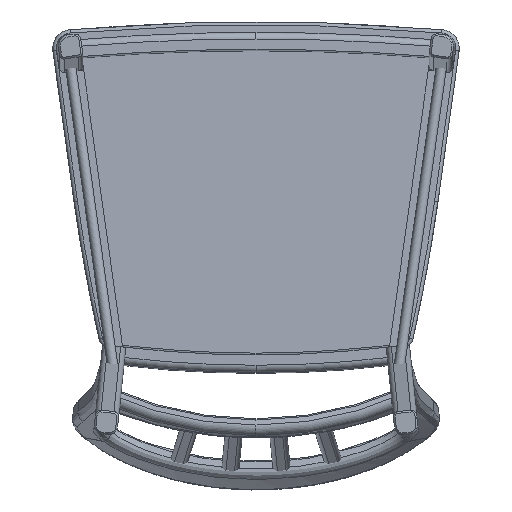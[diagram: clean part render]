
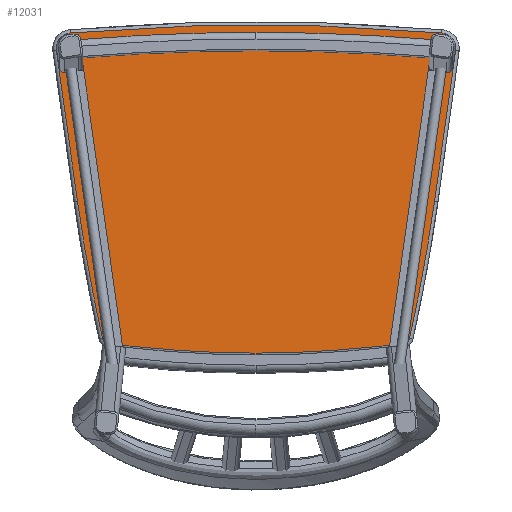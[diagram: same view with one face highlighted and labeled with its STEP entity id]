
A CAD part, front view. The second image highlights one B-rep face of the part: STEP entity #12031.
In plain terms, the highlighted planar face has unit normal (0, -0.999, 0.035).
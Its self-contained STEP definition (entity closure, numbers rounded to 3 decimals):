
#7 = EDGE_CURVE ( 'NONE', #11595, #2151, #10509, .T. ) ;
#92 = CARTESIAN_POINT ( 'NONE',  ( 1771.584, 412.214, 63.408 ) ) ;
#319 = DIRECTION ( 'NONE',  ( 0.139, 0.035, 0.99 ) ) ;
#750 = DIRECTION ( 'NONE',  ( 0., -0.035, -0.999 ) ) ;
#1405 = ORIENTED_EDGE ( 'NONE', *, *, #5393, .T. ) ;
#1466 = CARTESIAN_POINT ( 'NONE',  ( -170.146, 397.011, -371.969 ) ) ;
#1697 = ORIENTED_EDGE ( 'NONE', *, *, #9296, .T. ) ;
#2090 = VECTOR ( 'NONE', #319, 1000. ) ;
#2151 = VERTEX_POINT ( 'NONE', #5919 ) ;
#2573 = DIRECTION ( 'NONE',  ( 0., -0.999, 0.035 ) ) ;
#2682 = ORIENTED_EDGE ( 'NONE', *, *, #2939, .T. ) ;
#2739 = DIRECTION ( 'NONE',  ( 0., -0.999, 0.035 ) ) ;
#2939 = EDGE_CURVE ( 'NONE', #3916, #4698, #10437, .T. ) ;
#3056 = CIRCLE ( 'NONE', #12260, 8. ) ;
#3479 = CIRCLE ( 'NONE', #13571, 18. ) ;
#3733 = ORIENTED_EDGE ( 'NONE', *, *, #7009, .T. ) ;
#3916 = VERTEX_POINT ( 'NONE', #14881 ) ;
#3921 = CARTESIAN_POINT ( 'NONE',  ( -206.971, 402.51, -214.491 ) ) ;
#4113 = LINE ( 'NONE', #18176, #14461 ) ;
#4134 = VERTEX_POINT ( 'NONE', #17749 ) ;
#4144 = CIRCLE ( 'NONE', #13938, 1998. ) ;
#4237 = DIRECTION ( 'NONE',  ( 0., -0.035, -0.999 ) ) ;
#4402 = VERTEX_POINT ( 'NONE', #3921 ) ;
#4596 = AXIS2_PLACEMENT_3D ( 'NONE', #8421, #2739, #15504 ) ;
#4627 = DIRECTION ( 'NONE',  ( 0., -0.035, -0.999 ) ) ;
#4698 = VERTEX_POINT ( 'NONE', #11644 ) ;
#4783 = CARTESIAN_POINT ( 'NONE',  ( -231.522, 408.606, -39.908 ) ) ;
#5028 = DIRECTION ( 'NONE',  ( 0., -0.999, 0.035 ) ) ;
#5385 = EDGE_CURVE ( 'NONE', #4698, #4134, #14834, .T. ) ;
#5393 = EDGE_CURVE ( 'NONE', #18353, #5630, #16088, .T. ) ;
#5630 = VERTEX_POINT ( 'NONE', #14965 ) ;
#5666 = AXIS2_PLACEMENT_3D ( 'NONE', #17551, #11947, #11670 ) ;
#5757 = ORIENTED_EDGE ( 'NONE', *, *, #12553, .T. ) ;
#5840 = CARTESIAN_POINT ( 'NONE',  ( 213.697, 408.694, -37.404 ) ) ;
#5919 = CARTESIAN_POINT ( 'NONE',  ( 170.967, 396.733, -379.922 ) ) ;
#6648 = CARTESIAN_POINT ( 'NONE',  ( -177.952, 396.949, -373.719 ) ) ;
#6775 = DIRECTION ( 'NONE',  ( 0., -0.999, 0.035 ) ) ;
#7009 = EDGE_CURVE ( 'NONE', #5630, #11595, #15996, .T. ) ;
#7146 = DIRECTION ( 'NONE',  ( 0., -0.035, -0.999 ) ) ;
#7276 = ORIENTED_EDGE ( 'NONE', *, *, #7, .T. ) ;
#7447 = DIRECTION ( 'NONE',  ( 0.995, 0.004, 0.103 ) ) ;
#7453 = VERTEX_POINT ( 'NONE', #11236 ) ;
#7665 = CARTESIAN_POINT ( 'NONE',  ( 275.599, 419.552, 273.527 ) ) ;
#7767 = CIRCLE ( 'NONE', #9553, 8. ) ;
#7953 = CARTESIAN_POINT ( 'NONE',  ( -213.697, 408.694, -37.404 ) ) ;
#8218 = ORIENTED_EDGE ( 'NONE', *, *, #18007, .T. ) ;
#8229 = ORIENTED_EDGE ( 'NONE', *, *, #17185, .T. ) ;
#8284 = CARTESIAN_POINT ( 'NONE',  ( 1705.854, 389.976, -573.406 ) ) ;
#8421 = CARTESIAN_POINT ( 'NONE',  ( 0., 322.045, -2518.712 ) ) ;
#8509 = EDGE_CURVE ( 'NONE', #4134, #7453, #16913, .T. ) ;
#8846 = AXIS2_PLACEMENT_3D ( 'NONE', #17982, #5028, #750 ) ;
#8946 = ORIENTED_EDGE ( 'NONE', *, *, #8509, .T. ) ;
#9004 = CARTESIAN_POINT ( 'NONE',  ( 133.034, 396.596, -383.832 ) ) ;
#9022 = CARTESIAN_POINT ( 'NONE',  ( 1800.009, 402.597, -211.981 ) ) ;
#9296 = EDGE_CURVE ( 'NONE', #4402, #10757, #4144, .T. ) ;
#9537 = AXIS2_PLACEMENT_3D ( 'NONE', #12447, #16929, #9931 ) ;
#9553 = AXIS2_PLACEMENT_3D ( 'NONE', #13390, #12087, #17595 ) ;
#9635 = EDGE_LOOP ( 'NONE', ( #17090, #8946, #5757, #12393, #16115, #1697, #8218, #12218, #1405, #3733, #7276, #8229, #2682 ) ) ;
#9931 = DIRECTION ( 'NONE',  ( 0., -0.035, -0.999 ) ) ;
#10071 = VERTEX_POINT ( 'NONE', #4783 ) ;
#10116 = CARTESIAN_POINT ( 'NONE',  ( -133.034, 396.596, -383.832 ) ) ;
#10437 = CIRCLE ( 'NONE', #9537, 1998. ) ;
#10509 = LINE ( 'NONE', #9022, #11137 ) ;
#10757 = VERTEX_POINT ( 'NONE', #6648 ) ;
#11020 = EDGE_CURVE ( 'NONE', #15860, #10071, #3479, .T. ) ;
#11137 = VECTOR ( 'NONE', #7447, 1000. ) ;
#11209 = DIRECTION ( 'NONE',  ( 0., -0.999, 0.035 ) ) ;
#11236 = CARTESIAN_POINT ( 'NONE',  ( 215.241, 409.32, -19.482 ) ) ;
#11276 = DIRECTION ( 'NONE',  ( 0.139, -0.035, -0.99 ) ) ;
#11303 = FACE_OUTER_BOUND ( 'NONE', #9635, .T. ) ;
#11595 = VERTEX_POINT ( 'NONE', #9004 ) ;
#11644 = CARTESIAN_POINT ( 'NONE',  ( 206.971, 402.51, -214.491 ) ) ;
#11670 = DIRECTION ( 'NONE',  ( 0., -0.035, -0.999 ) ) ;
#11947 = DIRECTION ( 'NONE',  ( 0., -0.999, 0.035 ) ) ;
#12031 = ADVANCED_FACE ( 'NONE', ( #11303 ), #15403, .T. ) ;
#12087 = DIRECTION ( 'NONE',  ( 0., -0.999, 0.035 ) ) ;
#12218 = ORIENTED_EDGE ( 'NONE', *, *, #13299, .T. ) ;
#12260 = AXIS2_PLACEMENT_3D ( 'NONE', #1466, #2573, #7146 ) ;
#12393 = ORIENTED_EDGE ( 'NONE', *, *, #11020, .T. ) ;
#12447 = CARTESIAN_POINT ( 'NONE',  ( -1771.584, 412.214, 63.408 ) ) ;
#12553 = EDGE_CURVE ( 'NONE', #7453, #15860, #13489, .T. ) ;
#12728 = CARTESIAN_POINT ( 'NONE',  ( -170.967, 396.733, -379.922 ) ) ;
#13211 = AXIS2_PLACEMENT_3D ( 'NONE', #16999, #11209, #4237 ) ;
#13226 = CARTESIAN_POINT ( 'NONE',  ( -215.241, 409.32, -19.482 ) ) ;
#13299 = EDGE_CURVE ( 'NONE', #15011, #18353, #18256, .T. ) ;
#13390 = CARTESIAN_POINT ( 'NONE',  ( 170.146, 397.011, -371.969 ) ) ;
#13489 = CIRCLE ( 'NONE', #4596, 2510. ) ;
#13571 = AXIS2_PLACEMENT_3D ( 'NONE', #7953, #15395, #17834 ) ;
#13938 = AXIS2_PLACEMENT_3D ( 'NONE', #92, #6775, #18159 ) ;
#13959 = DIRECTION ( 'NONE',  ( 0.995, -0.004, -0.103 ) ) ;
#14461 = VECTOR ( 'NONE', #11276, 1000. ) ;
#14834 = LINE ( 'NONE', #7665, #2090 ) ;
#14881 = CARTESIAN_POINT ( 'NONE',  ( 177.952, 396.949, -373.719 ) ) ;
#14965 = CARTESIAN_POINT ( 'NONE',  ( 0., 396.357, -390.671 ) ) ;
#15011 = VERTEX_POINT ( 'NONE', #12728 ) ;
#15395 = DIRECTION ( 'NONE',  ( 0., -0.999, 0.035 ) ) ;
#15403 = PLANE ( 'NONE',  #13211 ) ;
#15504 = DIRECTION ( 'NONE',  ( 0., -0.035, -0.999 ) ) ;
#15636 = EDGE_CURVE ( 'NONE', #10071, #4402, #4113, .T. ) ;
#15860 = VERTEX_POINT ( 'NONE', #13226 ) ;
#15909 = VECTOR ( 'NONE', #13959, 1000. ) ;
#15996 = CIRCLE ( 'NONE', #8846, 1296.5 ) ;
#16088 = CIRCLE ( 'NONE', #5666, 1296.5 ) ;
#16115 = ORIENTED_EDGE ( 'NONE', *, *, #15636, .T. ) ;
#16913 = CIRCLE ( 'NONE', #17813, 18. ) ;
#16929 = DIRECTION ( 'NONE',  ( 0., -0.999, 0.035 ) ) ;
#16999 = CARTESIAN_POINT ( 'NONE',  ( 1771.584, 412.214, 63.408 ) ) ;
#17090 = ORIENTED_EDGE ( 'NONE', *, *, #5385, .T. ) ;
#17185 = EDGE_CURVE ( 'NONE', #2151, #3916, #7767, .T. ) ;
#17485 = DIRECTION ( 'NONE',  ( 0., -0.999, 0.035 ) ) ;
#17551 = CARTESIAN_POINT ( 'NONE',  ( 0., 441.605, 905.039 ) ) ;
#17595 = DIRECTION ( 'NONE',  ( 0., -0.035, -0.999 ) ) ;
#17749 = CARTESIAN_POINT ( 'NONE',  ( 231.522, 408.606, -39.908 ) ) ;
#17813 = AXIS2_PLACEMENT_3D ( 'NONE', #5840, #17485, #4627 ) ;
#17834 = DIRECTION ( 'NONE',  ( 0., -0.035, -0.999 ) ) ;
#17982 = CARTESIAN_POINT ( 'NONE',  ( 0., 441.605, 905.039 ) ) ;
#18007 = EDGE_CURVE ( 'NONE', #10757, #15011, #3056, .T. ) ;
#18159 = DIRECTION ( 'NONE',  ( 0., -0.035, -0.999 ) ) ;
#18176 = CARTESIAN_POINT ( 'NONE',  ( -206.971, 402.51, -214.491 ) ) ;
#18256 = LINE ( 'NONE', #8284, #15909 ) ;
#18353 = VERTEX_POINT ( 'NONE', #10116 ) ;
